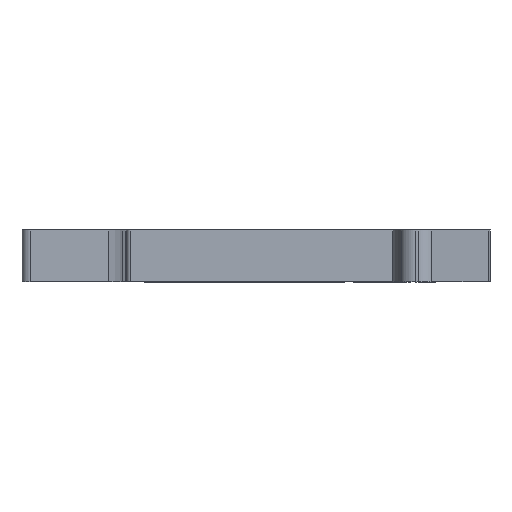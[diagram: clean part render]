
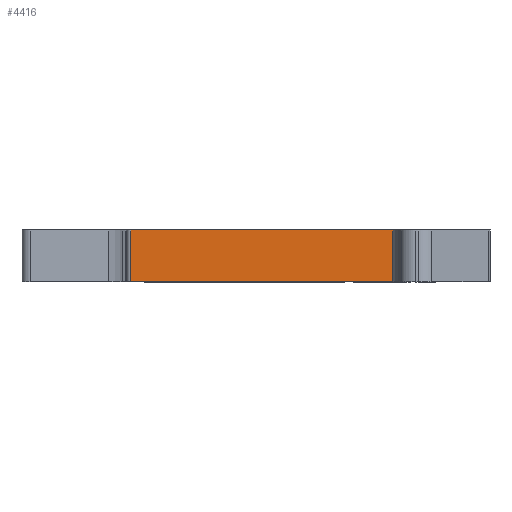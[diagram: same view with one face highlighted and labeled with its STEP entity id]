
A CAD part, front view. The second image highlights one B-rep face of the part: STEP entity #4416.
In plain terms, the highlighted planar face has unit normal (0, -1, 0).
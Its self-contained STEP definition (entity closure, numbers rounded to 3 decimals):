
#4416=ADVANCED_FACE('',(#9552),#7368,.T.);
#7368=PLANE('',#60400);
#9552=FACE_OUTER_BOUND('',#12549,.T.);
#12549=EDGE_LOOP('',(#16560,#16561,#16562,#16563));
#16560=ORIENTED_EDGE('',*,*,#38505,.T.);
#16561=ORIENTED_EDGE('',*,*,#38955,.T.);
#16562=ORIENTED_EDGE('',*,*,#38957,.T.);
#16563=ORIENTED_EDGE('',*,*,#38958,.F.);
#32896=VERTEX_POINT('',#81208);
#32897=VERTEX_POINT('',#81210);
#33240=VERTEX_POINT('',#82223);
#33241=VERTEX_POINT('',#82227);
#38505=EDGE_CURVE('',#32897,#32896,#46887,.T.);
#38955=EDGE_CURVE('',#32896,#33240,#47155,.T.);
#38957=EDGE_CURVE('',#33240,#33241,#47156,.T.);
#38958=EDGE_CURVE('',#32897,#33241,#47157,.T.);
#46887=LINE('',#81209,#53546);
#47155=LINE('',#82222,#53814);
#47156=LINE('',#82226,#53815);
#47157=LINE('',#82228,#53816);
#53546=VECTOR('',#65109,1.);
#53814=VECTOR('',#65925,1.);
#53815=VECTOR('',#65930,1.);
#53816=VECTOR('',#65931,1.);
#60400=AXIS2_PLACEMENT_3D('',#82229,#65932,#65933);
#65109=DIRECTION('',(-1.,0.,0.));
#65925=DIRECTION('',(0.,0.,-1.));
#65930=DIRECTION('',(1.,0.,0.));
#65931=DIRECTION('',(0.,0.,-1.));
#65932=DIRECTION('',(0.,-1.,0.));
#65933=DIRECTION('',(1.,0.,0.));
#81208=CARTESIAN_POINT('',(13.045,6.,0.));
#81209=CARTESIAN_POINT('',(45.596,6.,0.));
#81210=CARTESIAN_POINT('',(45.596,6.,0.));
#82222=CARTESIAN_POINT('',(13.045,6.,0.));
#82223=CARTESIAN_POINT('',(13.045,6.,-6.2));
#82226=CARTESIAN_POINT('',(13.045,6.,-6.2));
#82227=CARTESIAN_POINT('',(45.596,6.,-6.2));
#82228=CARTESIAN_POINT('',(45.596,6.,0.));
#82229=CARTESIAN_POINT('',(46.441,6.,0.186));
